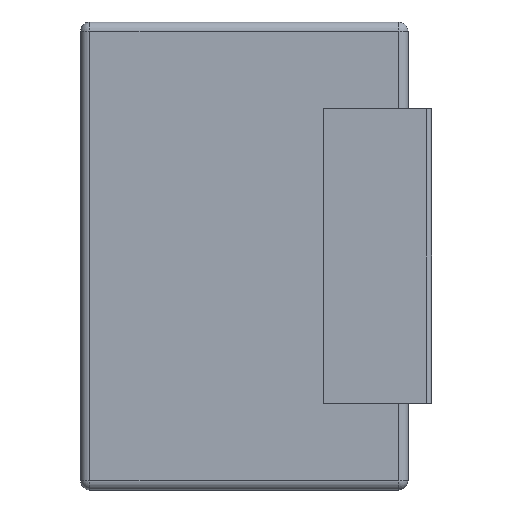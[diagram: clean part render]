
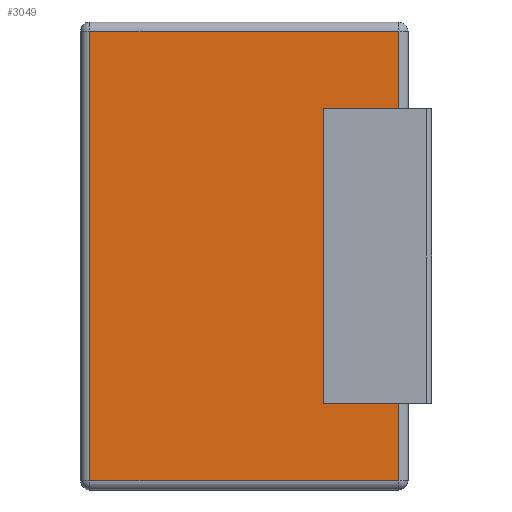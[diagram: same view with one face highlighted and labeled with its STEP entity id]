
A CAD part, left-side view. The second image highlights one B-rep face of the part: STEP entity #3049.
In plain terms, the highlighted planar face has unit normal (-1, 0, 0).
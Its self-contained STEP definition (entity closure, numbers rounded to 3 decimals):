
#41 = DIRECTION ( 'NONE',  ( 0., 0., -1. ) ) ;
#205 = CARTESIAN_POINT ( 'NONE',  ( -5.75, 3.3, 4.8 ) ) ;
#368 = EDGE_CURVE ( 'NONE', #1385, #5127, #1803, .T. ) ;
#371 = CARTESIAN_POINT ( 'NONE',  ( -5.75, -3.3, -4.8 ) ) ;
#771 = DIRECTION ( 'NONE',  ( 0., 1., 0. ) ) ;
#796 = EDGE_CURVE ( 'NONE', #3771, #1385, #1632, .T. ) ;
#1026 = PLANE ( 'NONE',  #1297 ) ;
#1187 = VERTEX_POINT ( 'NONE', #371 ) ;
#1297 = AXIS2_PLACEMENT_3D ( 'NONE', #4152, #3635, #41 ) ;
#1331 = DIRECTION ( 'NONE',  ( 0., 0., 1. ) ) ;
#1385 = VERTEX_POINT ( 'NONE', #205 ) ;
#1515 = ORIENTED_EDGE ( 'NONE', *, *, #368, .T. ) ;
#1632 = LINE ( 'NONE', #4813, #1822 ) ;
#1803 = LINE ( 'NONE', #3590, #5404 ) ;
#1822 = VECTOR ( 'NONE', #771, 1000. ) ;
#1898 = ORIENTED_EDGE ( 'NONE', *, *, #2283, .T. ) ;
#2130 = VECTOR ( 'NONE', #1331, 1000. ) ;
#2283 = EDGE_CURVE ( 'NONE', #1187, #3771, #5413, .T. ) ;
#2363 = ORIENTED_EDGE ( 'NONE', *, *, #4754, .T. ) ;
#2621 = ORIENTED_EDGE ( 'NONE', *, *, #796, .T. ) ;
#3049 = ADVANCED_FACE ( 'NONE', ( #3309 ), #1026, .F. ) ;
#3101 = CARTESIAN_POINT ( 'NONE',  ( -5.75, -3.3, 5. ) ) ;
#3108 = DIRECTION ( 'NONE',  ( 0., -1., 0. ) ) ;
#3309 = FACE_OUTER_BOUND ( 'NONE', #4077, .T. ) ;
#3590 = CARTESIAN_POINT ( 'NONE',  ( -5.75, 3.3, 5. ) ) ;
#3635 = DIRECTION ( 'NONE',  ( 1., 0., 0. ) ) ;
#3771 = VERTEX_POINT ( 'NONE', #4944 ) ;
#4018 = LINE ( 'NONE', #5931, #4983 ) ;
#4077 = EDGE_LOOP ( 'NONE', ( #1898, #2621, #1515, #2363 ) ) ;
#4152 = CARTESIAN_POINT ( 'NONE',  ( -5.75, -3.5, 5. ) ) ;
#4754 = EDGE_CURVE ( 'NONE', #5127, #1187, #4018, .T. ) ;
#4813 = CARTESIAN_POINT ( 'NONE',  ( -5.75, -3.5, 4.8 ) ) ;
#4944 = CARTESIAN_POINT ( 'NONE',  ( -5.75, -3.3, 4.8 ) ) ;
#4983 = VECTOR ( 'NONE', #3108, 1000. ) ;
#5127 = VERTEX_POINT ( 'NONE', #5507 ) ;
#5404 = VECTOR ( 'NONE', #5442, 1000. ) ;
#5413 = LINE ( 'NONE', #3101, #2130 ) ;
#5442 = DIRECTION ( 'NONE',  ( 0., 0., -1. ) ) ;
#5507 = CARTESIAN_POINT ( 'NONE',  ( -5.75, 3.3, -4.8 ) ) ;
#5931 = CARTESIAN_POINT ( 'NONE',  ( -5.75, -3.5, -4.8 ) ) ;
